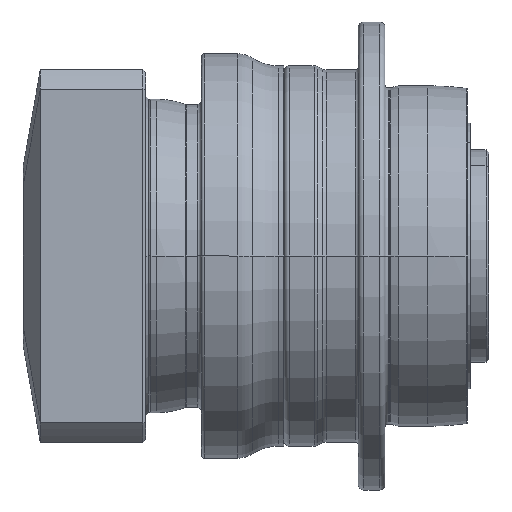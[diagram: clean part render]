
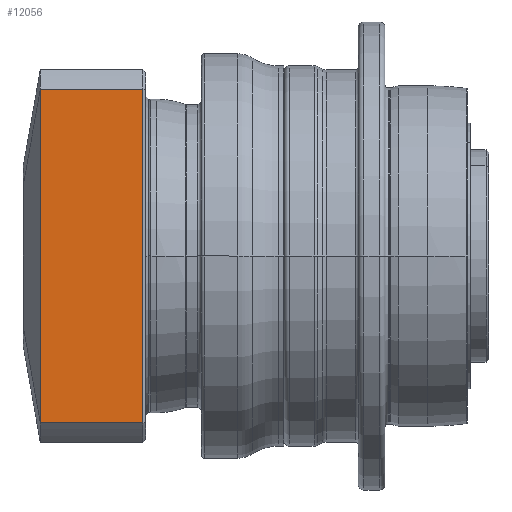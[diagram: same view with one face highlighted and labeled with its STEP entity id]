
A CAD part, front view. The second image highlights one B-rep face of the part: STEP entity #12056.
In plain terms, the highlighted planar face has unit normal (0, -1, 0) as drawn and (0, 1, 0) by its records, which use the part's own axes.
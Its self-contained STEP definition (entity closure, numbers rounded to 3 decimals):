
#10651=CARTESIAN_POINT('',(-31.369,35.,21.8));
#10653=DIRECTION('',(-1.,0.,0.));
#10654=VECTOR('',#10653,62.738);
#10655=CARTESIAN_POINT('',(31.369,35.,21.8));
#10656=LINE('',#10655,#10654);
#10657=DIRECTION('',(0.,0.,1.));
#10658=VECTOR('',#10657,19.3);
#10659=CARTESIAN_POINT('',(-31.369,35.,2.5));
#10660=LINE('',#10659,#10658);
#10661=DIRECTION('',(0.,0.,1.));
#10662=VECTOR('',#10661,19.3);
#10663=CARTESIAN_POINT('',(31.369,35.,2.5));
#10664=LINE('',#10663,#10662);
#10685=DIRECTION('',(-1.,0.,0.));
#10686=VECTOR('',#10685,62.738);
#10687=CARTESIAN_POINT('',(31.369,35.,2.5));
#10688=LINE('',#10687,#10686);
#10837=CARTESIAN_POINT('',(31.369,35.,2.5));
#10838=CARTESIAN_POINT('',(-31.369,35.,2.5));
#10839=VERTEX_POINT('',#10837);
#10840=VERTEX_POINT('',#10838);
#10894=CARTESIAN_POINT('',(31.369,35.,21.8));
#10896=VERTEX_POINT('',#10894);
#10898=VERTEX_POINT('',#10651);
#12042=CARTESIAN_POINT('',(35.,35.,0.));
#12043=DIRECTION('',(0.,1.,0.));
#12044=DIRECTION('',(-1.,0.,0.));
#12045=AXIS2_PLACEMENT_3D('',#12042,#12043,#12044);
#12046=PLANE('',#12045);
#12047=ORIENTED_EDGE('',*,*,#12037,.T.);
#12049=ORIENTED_EDGE('',*,*,#12048,.F.);
#12051=ORIENTED_EDGE('',*,*,#12050,.F.);
#12053=ORIENTED_EDGE('',*,*,#12052,.T.);
#12054=EDGE_LOOP('',(#12047,#12049,#12051,#12053));
#12055=FACE_OUTER_BOUND('',#12054,.F.);
#12056=ADVANCED_FACE('',(#12055),#12046,.T.);
#12037=EDGE_CURVE('',#10896,#10898,#10656,.T.);
#12048=EDGE_CURVE('',#10840,#10898,#10660,.T.);
#12050=EDGE_CURVE('',#10839,#10840,#10688,.T.);
#12052=EDGE_CURVE('',#10839,#10896,#10664,.T.);
